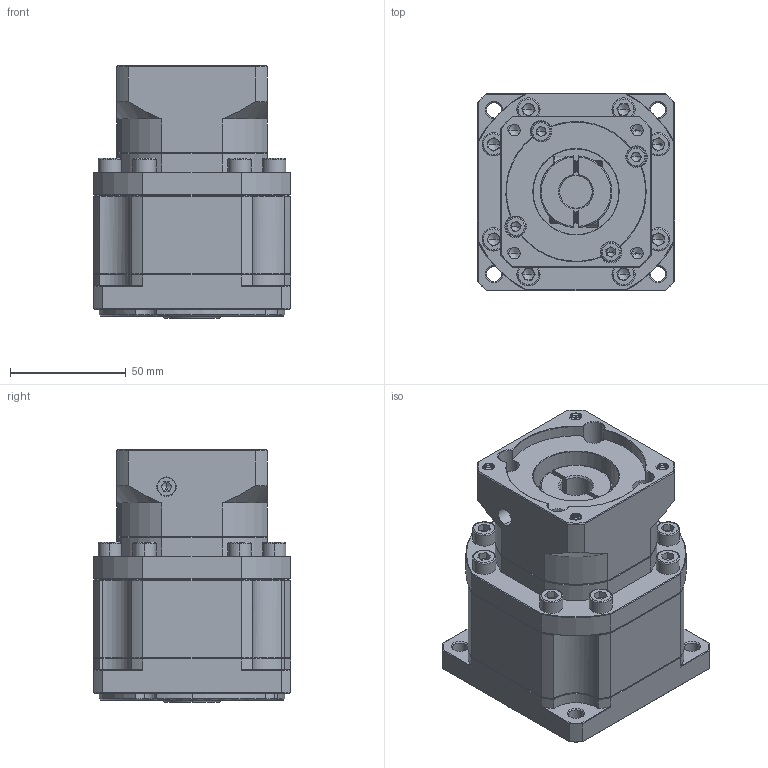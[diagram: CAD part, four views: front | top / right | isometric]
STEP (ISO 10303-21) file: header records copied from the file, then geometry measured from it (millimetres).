
FILE_DESCRIPTION (( 'STEP AP214' ), '1' );
FILE_NAME ('ZB090-K15-L2-P2-14-60-75-M6.step', '2023-08-18T13:40:38', ( '' ), ( '' ), 'SwSTEP 2.0', 'SolidWorks 2016', '' );
FILE_SCHEMA (( 'AUTOMOTIVE_DESIGN' ));
Length unit declared in the file: millimetre
Products named in the file (1): ZB090-K15-L2-P2-14-60-75-M6
Bounding box: 85 x 85 x 109 mm (x, y, z)
Volume: 520669.7 mm3; surface area: 75549.7 mm2
Topology: 6 solids, 6 shells, 2315 faces, 6171 edges, 3947 vertices
Faces by surface type: plane 1178, bspline 416, cylinder 378, cone 321, torus 22
Entity records: 119769 total; most frequent: CARTESIAN_POINT 39754, ORIENTED_EDGE 12254, DIRECTION 9845, EDGE_CURVE 6127, VERTEX_POINT 3947, LINE 3917, VECTOR 3917, AXIS2_PLACEMENT_3D 2964
